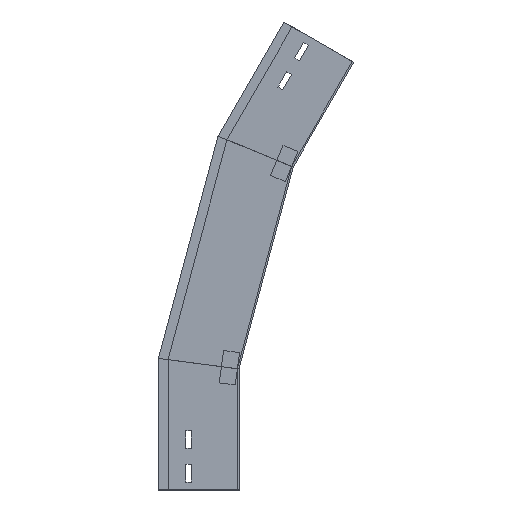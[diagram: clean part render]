
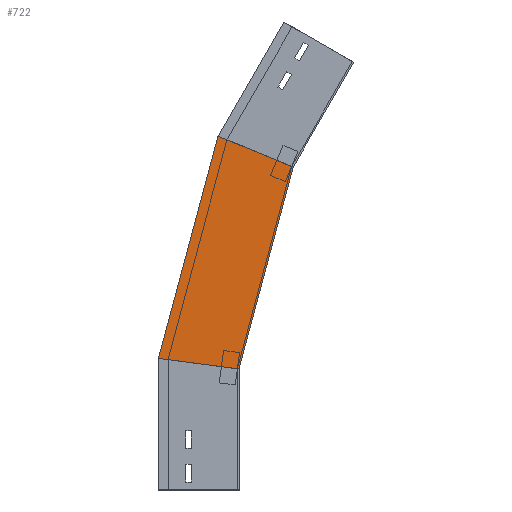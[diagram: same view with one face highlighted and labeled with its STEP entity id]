
A CAD part, left-side view. The second image highlights one B-rep face of the part: STEP entity #722.
In plain terms, the highlighted planar face has unit normal (-1, 0, 0) as drawn and (1, 0, 0) by its records, which use the part's own axes.
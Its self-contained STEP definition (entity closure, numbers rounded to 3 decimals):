
#10 = LINE ( 'NONE', #141, #335 ) ;
#20 = DIRECTION ( 'NONE',  ( 0., -0.991, -0.131 ) ) ;
#46 = EDGE_CURVE ( 'NONE', #1427, #1123, #581, .T. ) ;
#102 = ORIENTED_EDGE ( 'NONE', *, *, #1092, .F. ) ;
#103 = CARTESIAN_POINT ( 'NONE',  ( 0., -67.034, 400.175 ) ) ;
#111 = LINE ( 'NONE', #1272, #1135 ) ;
#137 = CARTESIAN_POINT ( 'NONE',  ( 0., 100.367, 161.797 ) ) ;
#141 = CARTESIAN_POINT ( 'NONE',  ( 0., 3.774, 135.915 ) ) ;
#163 = VECTOR ( 'NONE', #20, 1000. ) ;
#296 = FACE_OUTER_BOUND ( 'NONE', #849, .T. ) ;
#335 = VECTOR ( 'NONE', #470, 1000. ) ;
#344 = DIRECTION ( 'NONE',  ( 0., -0.924, -0.383 ) ) ;
#358 = VECTOR ( 'NONE', #1395, 1000. ) ;
#470 = DIRECTION ( 'NONE',  ( 0., -0.259, 0.966 ) ) ;
#492 = CARTESIAN_POINT ( 'NONE',  ( 0., 0., 150. ) ) ;
#559 = ORIENTED_EDGE ( 'NONE', *, *, #770, .T. ) ;
#581 = LINE ( 'NONE', #137, #358 ) ;
#594 = AXIS2_PLACEMENT_3D ( 'NONE', #870, #892, #1462 ) ;
#699 = ORIENTED_EDGE ( 'NONE', *, *, #838, .F. ) ;
#722 = ADVANCED_FACE ( 'NONE', ( #296 ), #1012, .T. ) ;
#736 = ORIENTED_EDGE ( 'NONE', *, *, #46, .T. ) ;
#770 = EDGE_CURVE ( 'NONE', #1123, #784, #111, .T. ) ;
#784 = VERTEX_POINT ( 'NONE', #103 ) ;
#838 = EDGE_CURVE ( 'NONE', #1461, #784, #10, .T. ) ;
#849 = EDGE_LOOP ( 'NONE', ( #736, #559, #699, #102 ) ) ;
#870 = CARTESIAN_POINT ( 'NONE',  ( 0., 3.774, 135.915 ) ) ;
#892 = DIRECTION ( 'NONE',  ( 1., 0., 0. ) ) ;
#1012 = PLANE ( 'NONE',  #594 ) ;
#1092 = EDGE_CURVE ( 'NONE', #1427, #1461, #1166, .T. ) ;
#1123 = VERTEX_POINT ( 'NONE', #1160 ) ;
#1135 = VECTOR ( 'NONE', #344, 1000. ) ;
#1160 = CARTESIAN_POINT ( 'NONE',  ( 0., 26.151, 438.773 ) ) ;
#1166 = LINE ( 'NONE', #1170, #163 ) ;
#1170 = CARTESIAN_POINT ( 'NONE',  ( 0., -19.411, 147.444 ) ) ;
#1192 = CARTESIAN_POINT ( 'NONE',  ( 0., 100., 163.165 ) ) ;
#1272 = CARTESIAN_POINT ( 'NONE',  ( 0., -100.025, 386.509 ) ) ;
#1395 = DIRECTION ( 'NONE',  ( 0., -0.259, 0.966 ) ) ;
#1427 = VERTEX_POINT ( 'NONE', #1192 ) ;
#1461 = VERTEX_POINT ( 'NONE', #492 ) ;
#1462 = DIRECTION ( 'NONE',  ( 0., 0., -1. ) ) ;
